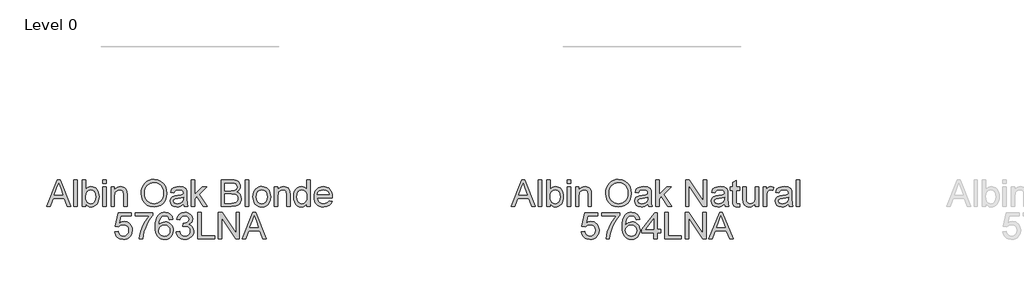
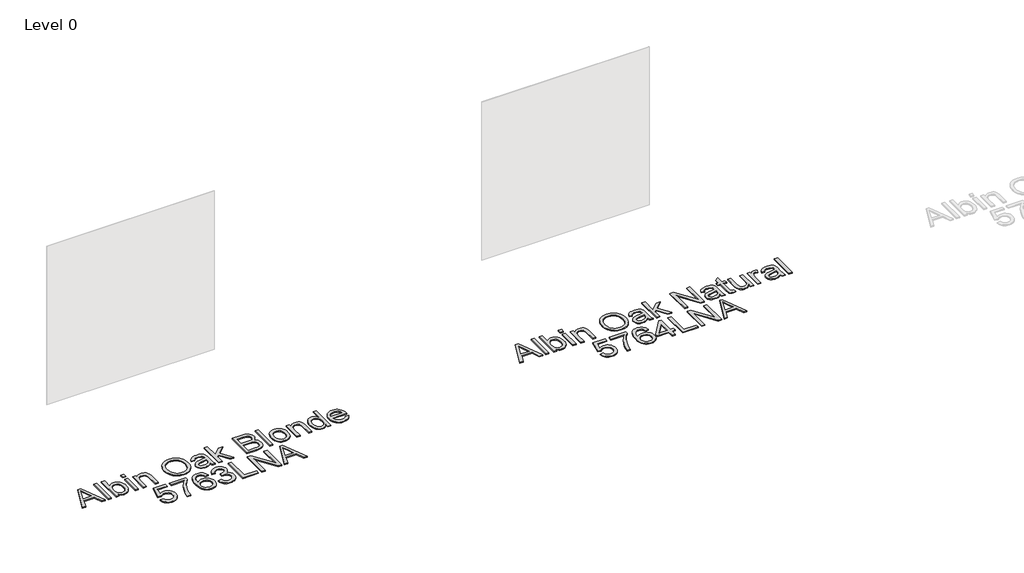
# One storey, part 26 of 43: 2 proxies.
"""IFC4 building model written with IfcOpenShell, lengths in millimetres."""

from ifc_helpers import new_model, si_unit, origin, origin_with_axes, place, context, project, spatial, polyline, outline, extrude, element, save

model = new_model("IFC4")

# Units and contexts
model_context = context("Model", 3, world=origin())
ifc_project = project(units=[si_unit("LENGTHUNIT", "METRE", prefix="MILLI")], contexts=[model_context])

# Site, building, storey
site = spatial("IfcSite", under=ifc_project)
building = spatial("IfcBuilding", under=site)
storey = spatial("IfcBuildingStorey", under=building, Name="Level 0", Elevation=0.0)

# Proxies
placement = place(None, origin())
element("IfcBuildingElementProxy", 1, Name="300mm Arial", ObjectType="300mm Arial", at=placement, inside=storey, context=model_context, shape_type="SweptSolid", body=[
    extrude(outline(polyline([(15934.4135613, -22016.4454346), (16054.7109737, -21715.0765041), (16086.7902837, -21715.0765041), (16207.0876961, -22016.4454346), (16167.2828642, -22016.4454346), (16132.7755331, -21922.2676438), (16008.6521479, -21922.2676438), (15974.2183931, -22016.4454346), (15934.4135613, -22016.4454346)]), holes=[polyline([(16022.4845109, -21884.5965275), (16119.0167464, -21884.5965275), (16091.8670552, -21810.5050937), (16070.7506287, -21752.7476204), (16051.9886469, -21804.0303705), (16022.4845109, -21884.5965275)])]), origin_with_axes(), (0.0, 0.0, 1.0), 10.0),
    extrude(outline(polyline([(16242.6250968, -22016.4454346), (16242.6250968, -21715.0765041), (16280.2962131, -21715.0765041), (16280.2962131, -22016.4454346), (16242.6250968, -22016.4454346)])), origin_with_axes(), (0.0, 0.0, 1.0), 10.0),
    extrude(outline(polyline([(16374.4740039, -22016.4454346), (16336.8028876, -22016.4454346), (16336.8028876, -21715.0765041), (16374.4740039, -21715.0765041), (16374.4740039, -21826.8390542), (16386.8624301, -21810.9051653), (16400.851143, -21799.5238161), (16416.4401425, -21792.6950066), (16433.6294287, -21790.4187367), (16453.035204, -21792.4696788), (16471.3741214, -21798.6225052), (16487.5977174, -21808.4909397), (16500.6575282, -21821.6887063), (16510.8938448, -21838.0870462), (16518.6469578, -21857.5572008), (16523.5305913, -21879.2898297), (16525.1584691, -21902.4755924), (16523.4731097, -21929.2298105), (16518.4170316, -21952.7650612), (16509.9902346, -21973.0813444), (16498.1927189, -21990.1786601), (16484.0315613, -22003.7305131), (16468.5138389, -22013.4104081), (16451.6395516, -22019.2183451), (16433.4086995, -22021.1543241), (16415.6537947, -22018.657325), (16399.9130439, -22011.1663279), (16386.1864469, -21998.6813327), (16374.4740039, -21981.2023394), (16374.4740039, -22016.4454346)]), holes=[polyline([(16374.4740039, -21904.241426), (16377.0491779, -21935.6585484), (16384.7746998, -21956.9221277), (16393.9027718, -21968.5426003), (16404.5115688, -21976.8429378), (16416.6010909, -21981.8231403), (16430.171338, -21983.4832078), (16451.9131639, -21978.5903772), (16470.4912046, -21963.9118856), (16483.2383158, -21939.5397035), (16487.4873528, -21905.5658012), (16483.4130597, -21871.0952583), (16471.1901804, -21846.9989876), (16453.1915538, -21832.8171367), (16431.7900187, -21828.089853), (16410.0481928, -21832.9826836), (16391.4701521, -21847.6611752), (16378.7230409, -21871.591899), (16374.4740039, -21904.241426)])]), origin_with_axes(), (0.0, 0.0, 1.0), 10.0),
    extrude(outline(polyline([(16567.538475, -21752.7476204), (16567.538475, -21715.0765041), (16605.2095913, -21715.0765041), (16605.2095913, -21752.7476204), (16567.538475, -21752.7476204)])), origin_with_axes(), (0.0, 0.0, 1.0), 10.0),
    extrude(outline(polyline([(16567.538475, -22016.4454346), (16567.538475, -21795.1276263), (16605.2095913, -21795.1276263), (16605.2095913, -22016.4454346), (16567.538475, -22016.4454346)])), origin_with_axes(), (0.0, 0.0, 1.0), 10.0),
    extrude(outline(polyline([(16661.7162657, -22016.4454346), (16661.7162657, -21795.1276263), (16699.387382, -21795.1276263), (16699.387382, -21826.0297138), (16712.474784, -21810.4499114), (16728.1925423, -21799.321481), (16746.5406568, -21792.6444228), (16767.5191275, -21790.4187367), (16786.0879712, -21792.2121614), (16803.0933165, -21797.5924356), (16817.2751674, -21805.8881746), (16827.3735282, -21816.4279938), (16838.6675054, -21844.129508), (16840.6540682, -21880.5498255), (16840.6540682, -22016.4454346), (16802.9829519, -22016.4454346), (16802.9829519, -21885.6265971), (16798.6419443, -21852.2964883), (16792.6362708, -21842.3728715), (16783.3012651, -21834.6749407), (16771.3359032, -21829.7361249), (16757.4391609, -21828.089853), (16735.3754382, -21831.7870671), (16716.5674712, -21842.8787092), (16709.0511822, -21851.9332048), (16703.6824043, -21864.3078354), (16699.387382, -21899.0175017), (16699.387382, -22016.4454346), (16661.7162657, -22016.4454346)])), origin_with_axes(), (0.0, 0.0, 1.0), 10.0),
    extrude(outline(polyline([(17000.7563125, -21869.7340949), (17003.2671071, -21834.3852337), (17010.799491, -21803.0922714), (17023.353464, -21775.8552082), (17040.9290264, -21752.674044), (17062.4731157, -21734.1649811), (17086.9326699, -21720.9442219), (17114.3076888, -21713.0117664), (17144.5981726, -21710.3676146), (17184.127093, -21715.3340215), (17219.5725232, -21730.2332423), (17249.0030828, -21754.0168133), (17270.4873913, -21785.6362708), (17283.6207786, -21823.5649045), (17287.9985743, -21866.2760041), (17283.3908523, -21909.5573209), (17269.5676864, -21948.0193834), (17247.2924316, -21979.6940232), (17217.328443, -22002.6130715), (17182.1865155, -22016.519011), (17144.3774434, -22021.1543241), (17104.2415177, -22016.0315673), (17068.5937524, -22000.663297), (17039.2367692, -21976.4382676), (17017.9731899, -21944.7452337), (17005.0605318, -21908.2789309), (17000.7563125, -21869.7340949)]), holes=[polyline([(17038.4274288, -21870.1019769), (17040.3105248, -21895.0765658), (17045.9598126, -21917.2460546), (17055.3752925, -21936.6104431), (17068.5569642, -21953.1697314), (17084.5805243, -21966.4318773), (17102.5216694, -21975.9048387), (17122.3803994, -21981.5886155), (17144.1567142, -21983.4832078), (17166.3055096, -21981.5702214), (17186.3987643, -21975.8312623), (17204.4364784, -21966.2663304), (17220.4186518, -21952.8754258), (17233.5037545, -21935.9666496), (17242.8502565, -21915.848103), (17248.4581576, -21892.519786), (17250.327458, -21865.9816985), (17247.1268847, -21832.6331957), (17237.5251646, -21803.8096413), (17221.7706181, -21780.2376025), (17200.1115657, -21762.6436461), (17173.982747, -21751.6899597), (17144.8189018, -21748.0387309), (17123.7990443, -21749.7976667), (17104.2967, -21755.074474), (17086.311869, -21763.869153), (17069.8445512, -21776.1817035), (17056.0995601, -21792.6053353), (17046.2817094, -21813.7332582), (17040.3909989, -21839.565472), (17038.4274288, -21870.1019769)])]), origin_with_axes(), (0.0, 0.0, 1.0), 10.0),
    extrude(outline(polyline([(17476.3541558, -21988.1920973), (17458.3555292, -22003.624747), (17439.8234737, -22013.7231078), (17420.334925, -22019.29652), (17399.4668189, -22021.1543241), (17367.9853171, -22016.6845578), (17344.7627662, -22003.2752591), (17330.4429595, -21982.9129907), (17325.6696906, -21957.5843153), (17327.4723124, -21941.9677246), (17332.8801777, -21927.7858737), (17341.221902, -21915.6457679), (17351.8261005, -21906.1544124), (17378.2032395, -21893.7935774), (17410.7975843, -21888.1281946), (17449.3148292, -21882.1685063), (17476.1334267, -21875.1787484), (17476.3541558, -21866.7910389), (17473.7605878, -21849.9788317), (17465.9798836, -21838.9791601), (17448.5790652, -21830.8121798), (17424.3356417, -21828.089853), (17401.89484, -21829.9016718), (17386.223067, -21835.3371283), (17375.5360951, -21845.3895038), (17368.0496965, -21861.0520798), (17330.3785802, -21856.3431903), (17336.9176826, -21835.7417985), (17346.6757525, -21819.5549907), (17360.5632979, -21807.1757616), (17379.4908265, -21797.9971058), (17402.6398011, -21792.313329), (17429.1916841, -21790.4187367), (17454.6583152, -21792.0925998), (17474.8458397, -21797.114189), (17490.0669572, -21804.664967), (17500.6343675, -21813.9263962), (17507.6425195, -21825.3767233), (17512.1858622, -21839.4941949), (17514.0252722, -21872.4564216), (17514.0252722, -21919.3245878), (17515.9382585, -21984.7707948), (17523.4430512, -22016.4454346), (17485.7719349, -22016.4454346), (17476.3541558, -21988.1920973)]), holes=[polyline([(17476.3541558, -21912.8498647), (17415.5800502, -21924.4013594), (17383.1696465, -21930.5082005), (17368.4911549, -21940.4410143), (17363.3408069, -21954.935565), (17366.1459071, -21966.1375717), (17374.5612078, -21975.3162275), (17388.4027679, -21981.4414627), (17407.4866464, -21983.4832078), (17427.7201561, -21981.2299306), (17445.5992211, -21974.4700989), (17460.0937717, -21964.5096939), (17470.1737383, -21952.6546966), (17474.6435046, -21940.4410143), (17476.1334267, -21923.5184426), (17476.3541558, -21912.8498647)])]), origin_with_axes(), (0.0, 0.0, 1.0), 10.0),
    extrude(outline(polyline([(17565.8230571, -22016.4454346), (17565.8230571, -21715.0765041), (17603.4941734, -21715.0765041), (17603.4941734, -21877.0181584), (17687.9598795, -21795.1276263), (17740.05197, -21795.1276263), (17654.5561943, -21878.048228), (17744.7608595, -22016.4454346), (17700.7621729, -22016.4454346), (17627.5536559, -21904.241426), (17603.4941734, -21927.5651445), (17603.4941734, -22016.4454346), (17565.8230571, -22016.4454346)])), origin_with_axes(), (0.0, 0.0, 1.0), 10.0),
    extrude(outline(polyline([(17900.1542143, -22016.4454346), (17900.1542143, -21715.0765041), (18015.154126, -21715.0765041), (18046.7827805, -21717.2929931), (18071.4768594, -21723.9424602), (18090.4043881, -21735.1904522), (18104.7333918, -21751.202516), (18113.7556977, -21770.0380742), (18116.7631331, -21789.7565491), (18114.2339443, -21807.9023285), (18106.6463782, -21824.9628561), (18093.9452523, -21839.889668), (18076.0753844, -21851.6343007), (18097.4217372, -21862.7811252), (18113.1946777, -21879.7404851), (18122.9343535, -21901.3903406), (18126.1809121, -21926.6086513), (18123.9644231, -21947.6239103), (18117.314956, -21967.112459), (18107.3913392, -21983.6855429), (18095.3524009, -21995.9544074), (18080.60953, -22004.8387576), (18062.5741152, -22011.2582984), (18014.2712092, -22016.4454346), (17900.1542143, -22016.4454346)]), holes=[polyline([(17937.8253306, -21837.5076321), (18006.6192637, -21837.5076321), (18046.7919776, -21834.2702705), (18060.8542668, -21828.6876613), (18070.9618247, -21820.3275429), (18077.0594687, -21809.3186742), (18079.0920167, -21795.7898138), (18077.1974245, -21782.6564266), (18071.5136476, -21771.2152966), (18062.2982037, -21762.2849611), (18049.8086099, -21756.6839578), (18001.3953394, -21752.7476204), (17937.8253306, -21752.7476204), (17937.8253306, -21837.5076321)]), polyline([(17937.8253306, -21978.7743182), (18015.0805496, -21978.7743182), (18043.0395812, -21977.3027903), (18066.6943935, -21969.0990218), (18082.3661665, -21952.360391), (18086.9738885, -21940.5329848), (18088.5097958, -21926.9765333), (18086.707174, -21911.2311839), (18081.2993087, -21897.6931265), (18071.8539385, -21887.1073221), (18057.938802, -21880.2187317), (18038.2295241, -21876.4387442), (18011.4017296, -21875.1787484), (17937.8253306, -21875.1787484), (17937.8253306, -21978.7743182)])]), origin_with_axes(), (0.0, 0.0, 1.0), 10.0),
    extrude(outline(polyline([(18173.2698075, -22016.4454346), (18173.2698075, -21715.0765041), (18210.9409238, -21715.0765041), (18210.9409238, -22016.4454346), (18173.2698075, -22016.4454346)])), origin_with_axes(), (0.0, 0.0, 1.0), 10.0),
    extrude(outline(polyline([(18258.0298192, -21905.7865304), (18260.0669657, -21877.1239245), (18266.1784054, -21852.425247), (18276.3641381, -21831.690498), (18290.624164, -21814.9196776), (18304.9807588, -21804.200516), (18320.8272758, -21796.5439719), (18338.1637148, -21791.9500455), (18356.9900759, -21790.4187367), (18377.7731094, -21792.2834386), (18396.5649815, -21797.8775442), (18413.3656924, -21807.2010535), (18428.175242, -21820.2539665), (18440.2624648, -21836.5948249), (18448.8961953, -21855.7821702), (18454.0764337, -21877.8160025), (18455.8031798, -21902.6963216), (18452.7497592, -21940.753714), (18443.5894976, -21969.7244212), (18428.5891092, -21991.4202618), (18408.0153086, -22007.6530549), (18383.5787471, -22017.7790068), (18356.9900759, -22021.1543241), (18335.9035398, -22019.29652), (18316.9369237, -22013.7231078), (18300.0902276, -22004.4340874), (18285.3634514, -21991.4294589), (18273.4049873, -21974.9299514), (18264.8632273, -21955.1562942), (18259.7381712, -21932.1084872), (18258.0298192, -21905.7865304)]), holes=[polyline([(18295.7009355, -21905.712954), (18300.0603372, -21939.8064179), (18313.1385421, -21964.0958266), (18332.8202288, -21978.6363625), (18356.9900759, -21983.4832078), (18381.0495584, -21978.6087713), (18400.6944569, -21963.985462), (18413.7726619, -21939.3741566), (18418.1320635, -21904.5357316), (18413.7450707, -21871.4355491), (18400.5840923, -21847.4772342), (18380.9116026, -21832.9366983), (18356.9900759, -21828.089853), (18332.8202288, -21832.9183042), (18313.1385421, -21847.4036578), (18300.0603372, -21871.6378842), (18295.7009355, -21905.712954)])]), origin_with_axes(), (0.0, 0.0, 1.0), 10.0),
    extrude(outline(polyline([(18498.1831857, -22016.4454346), (18498.1831857, -21795.1276263), (18535.854302, -21795.1276263), (18535.854302, -21826.0297138), (18548.9417039, -21810.4499114), (18564.6594622, -21799.321481), (18583.0075767, -21792.6444228), (18603.9860475, -21790.4187367), (18622.5548912, -21792.2121614), (18639.5602364, -21797.5924356), (18653.7420873, -21805.8881746), (18663.8404481, -21816.4279938), (18675.1344253, -21844.129508), (18677.1209881, -21880.5498255), (18677.1209881, -22016.4454346), (18639.4498718, -22016.4454346), (18639.4498718, -21885.6265971), (18635.1088643, -21852.2964883), (18629.1031907, -21842.3728715), (18619.7681851, -21834.6749407), (18607.8028232, -21829.7361249), (18593.9060808, -21828.089853), (18571.8423581, -21831.7870671), (18553.0343911, -21842.8787092), (18545.5181021, -21851.9332048), (18540.1493243, -21864.3078354), (18535.854302, -21899.0175017), (18535.854302, -22016.4454346), (18498.1831857, -22016.4454346)])), origin_with_axes(), (0.0, 0.0, 1.0), 10.0),
    extrude(outline(polyline([(18865.4765696, -22016.4454346), (18865.4765696, -21980.9080338), (18854.205585, -21998.5157858), (18840.5525645, -22011.0927515), (18824.517508, -22018.6389309), (18806.1004156, -22021.1543241), (18781.7466275, -22017.5122923), (18759.4529786, -22006.5861971), (18740.5806323, -21989.1393935), (18726.4907519, -21965.9352366), (18717.7167663, -21937.9118256), (18714.7921044, -21906.0072596), (18717.48684, -21874.4981667), (18725.5710469, -21846.0424944), (18739.0355279, -21822.2589234), (18757.871086, -21804.7661345), (18780.6521786, -21794.0055862), (18805.9532628, -21790.4187367), (18824.3841508, -21792.9847136), (18840.6813232, -21800.6826444), (18854.4952921, -21812.4824594), (18865.4765696, -21827.354089), (18865.4765696, -21715.0765041), (18903.1476859, -21715.0765041), (18903.1476859, -22016.4454346), (18865.4765696, -22016.4454346)]), holes=[polyline([(18752.4632207, -21905.8601068), (18756.7122578, -21939.9351766), (18769.4593689, -21964.169403), (18787.9822274, -21978.6547566), (18809.5585064, -21983.4832078), (18831.1255883, -21978.8754858), (18849.1793973, -21965.0523198), (18861.4022765, -21941.7561925), (18865.4765696, -21908.7295864), (18861.3287001, -21872.6219685), (18848.8850917, -21847.5875988), (18830.3714302, -21832.9642895), (18808.013402, -21828.089853), (18786.2163938, -21832.7711514), (18768.3557229, -21846.8150466), (18756.4363463, -21870.9389084), (18752.4632207, -21905.8601068)])]), origin_with_axes(), (0.0, 0.0, 1.0), 10.0),
    extrude(outline(polyline([(19114.6062568, -21950.520981), (19151.5416091, -21955.2298706), (19138.2334779, -21983.0601435), (19116.9974897, -22003.8638703), (19088.3118912, -22016.8317106), (19052.6549288, -22021.1543241), (19029.2806265, -22019.2896222), (19008.4539071, -22013.6955166), (18990.1747704, -22004.3720073), (18974.4432166, -21991.3190943), (18961.7926745, -21974.900061), (18952.756573, -21955.4781909), (18947.3349121, -21933.053484), (18945.5276918, -21907.6259404), (18947.3533062, -21881.3361733), (18952.8301494, -21858.1642061), (18961.9582214, -21838.1100389), (18974.7375222, -21821.1736715), (18990.4276893, -21807.7183875), (19008.2883602, -21798.1074704), (19028.3195348, -21792.3409201), (19050.5212132, -21790.4187367), (19072.007821, -21792.3363216), (19091.4388881, -21798.0890763), (19108.8144146, -21807.6770008), (19124.1344004, -21821.1000951), (19136.640089, -21837.9996743), (19145.5727237, -21858.0170533), (19150.9323045, -21881.1522323), (19152.7188315, -21907.4052112), (19152.4981023, -21917.5587542), (18983.1988081, -21917.5587542), (18989.7195165, -21945.7569092), (19004.8670576, -21966.4870596), (19026.7284452, -21979.2341707), (19053.3906928, -21983.4832078), (19073.4402615, -21981.5150391), (19090.3260451, -21975.6105331), (19104.0480435, -21965.4018077), (19114.6062568, -21950.520981)]), holes=[polyline([(18983.1988081, -21879.8876379), (19115.0477152, -21879.8876379), (19109.9525495, -21859.985222), (19099.9645534, -21845.7481888), (19078.0019983, -21832.504437), (19050.3740604, -21828.089853), (19024.9810057, -21831.6123231), (19003.9841408, -21842.1797334), (18989.3884227, -21858.6516498), (18983.1988081, -21879.8876379)])]), origin_with_axes(), (0.0, 0.0, 1.0), 10.0),
    extrude(outline(polyline([(16701.7418268, -22302.3187659), (16739.4129431, -22297.6098764), (16746.3291246, -22320.2254221), (16758.3956541, -22336.4214269), (16775.5573491, -22346.1611027), (16797.7590275, -22349.4076613), (16824.761566, -22344.8919098), (16844.9950757, -22331.3446554), (16857.6318223, -22310.3293964), (16861.8440711, -22283.4096314), (16857.8985367, -22258.0625619), (16846.0619335, -22238.6751808), (16826.242291, -22226.369528), (16798.3476387, -22222.2676438), (16780.0731006, -22223.9047187), (16765.2750474, -22228.8159433), (16744.1218326, -22245.8120915), (16706.4507163, -22241.1032019), (16739.4129431, -22085.7098472), (16885.3885188, -22085.7098472), (16885.3885188, -22123.3809635), (16769.8735723, -22123.3809635), (16753.7603409, -22206.3751416), (16780.6709089, -22190.041181), (16808.8690638, -22184.5965275), (16827.214879, -22186.2841861), (16844.0661737, -22191.3471621), (16859.4229477, -22199.7854554), (16873.2852012, -22211.5990659), (16884.7608201, -22226.0660254), (16892.9576908, -22242.4643653), (16897.8758133, -22260.7940857), (16899.5151874, -22281.0551866), (16893.6106814, -22318.7263029), (16886.2300489, -22335.520116), (16875.8971633, -22350.9527657), (16860.2437844, -22366.7578959), (16841.9784434, -22378.0472746), (16821.1011401, -22384.8209019), (16797.6118747, -22387.0787776), (16760.6121431, -22381.2754392), (16744.9334723, -22374.0212661), (16731.1355982, -22363.8654237), (16719.6553807, -22351.3137499), (16710.9296796, -22336.8720823), (16701.7418268, -22302.3187659)])), origin_with_axes(), (0.0, 0.0, 1.0), 10.0),
    extrude(outline(polyline([(16932.4774142, -22123.3809635), (16932.4774142, -22085.7098472), (17130.2507748, -22085.7098472), (17130.2507748, -22116.1704764), (17102.0618169, -22151.8458329), (17074.1487705, -22197.2148799), (17049.528268, -22248.1389451), (17031.2169417, -22300.479356), (17022.240621, -22339.6403943), (17017.2374259, -22382.3698881), (16979.5663096, -22382.3698881), (16983.6406027, -22343.5399435), (16994.5391068, -22297.3891472), (17011.9675163, -22248.4700389), (17035.6315256, -22201.3351583), (17063.2594635, -22158.7252262), (17092.5796585, -22123.3809635), (16932.4774142, -22123.3809635)])), origin_with_axes(), (0.0, 0.0, 1.0), 10.0),
    extrude(outline(polyline([(17356.2774726, -22161.0520798), (17318.6063563, -22165.7609693), (17312.5363034, -22147.0909581), (17304.3325349, -22134.3438469), (17287.2444162, -22122.5900172), (17266.5878422, -22118.6720739), (17249.0766592, -22120.9529423), (17232.5955458, -22127.7955474), (17218.4412861, -22142.2073246), (17206.8805944, -22162.0453612), (17199.072299, -22190.1055604), (17196.1752283, -22229.1838253), (17211.2859813, -22211.5530807), (17229.3949725, -22199.1278663), (17249.4905265, -22191.7610293), (17270.5609677, -22189.305417), (17288.6607619, -22190.9838786), (17305.3626045, -22196.0192634), (17320.6664955, -22204.4115714), (17334.5724349, -22216.1608027), (17346.1285281, -22230.5679813), (17354.3828803, -22246.9341316), (17359.3354917, -22265.2592534), (17360.9863622, -22285.543347), (17357.8777593, -22312.5182943), (17348.5519507, -22337.5250729), (17333.7814886, -22358.7334699), (17314.3389252, -22374.3132724), (17291.1071772, -22383.8874013), (17264.9691614, -22387.0787776), (17242.5122649, -22384.9634562), (17222.2304706, -22378.6174917), (17204.1237787, -22368.0408844), (17188.192189, -22353.2336341), (17175.2036553, -22333.5703414), (17165.9261313, -22308.4256071), (17160.3596168, -22277.799431), (17158.504112, -22241.6918131), (17160.5642512, -22201.2109981), (17166.7446687, -22166.6622802), (17177.0453646, -22138.0456595), (17191.4663388, -22115.361136), (17207.0967251, -22100.328558), (17225.2195118, -22089.5910022), (17245.8346991, -22083.1484688), (17268.942287, -22081.0009576), (17301.9964842, -22086.3168525), (17328.4655938, -22102.264537), (17347.0068463, -22127.5932123), (17356.2774726, -22161.0520798)]), holes=[polyline([(17196.1752283, -22284.9547358), (17198.3549291, -22301.6473813), (17204.8940316, -22317.5858687), (17215.0475747, -22331.2894731), (17228.0705973, -22341.2774692), (17243.7883555, -22347.3751133), (17262.0261055, -22349.4076613), (17286.8857313, -22345.1954125), (17306.4294623, -22332.5586659), (17319.0938, -22312.6930382), (17323.3152459, -22286.7941457), (17319.1489823, -22261.9345199), (17306.6501915, -22242.9794001), (17286.7753667, -22230.97725), (17260.4810011, -22226.9765333), (17235.6581635, -22230.97725), (17214.9004219, -22242.9794001), (17200.8565267, -22261.4746674), (17196.1752283, -22284.9547358)])]), origin_with_axes(), (0.0, 0.0, 1.0), 10.0),
    extrude(outline(polyline([(17393.9485889, -22302.3187659), (17431.6197052, -22297.6098764), (17440.0534, -22321.2830828), (17452.405038, -22337.2675555), (17469.2816245, -22346.3726349), (17491.2901649, -22349.4076613), (17517.1154809, -22345.2322007), (17537.0546851, -22332.7058187), (17549.8017962, -22314.0174134), (17554.0508332, -22291.3558825), (17549.8385844, -22269.8439828), (17537.2018379, -22252.3971792), (17518.0719741, -22240.8364875), (17494.3803736, -22236.9829236), (17467.9664464, -22241.1032019), (17472.1603011, -22203.4320856), (17478.1935658, -22203.873544), (17500.7631262, -22201.1696114), (17520.9414537, -22193.0578134), (17535.1784869, -22179.3358149), (17539.9241646, -22159.801281), (17536.484468, -22143.5316998), (17526.165378, -22130.3339332), (17510.4200286, -22121.5875388), (17490.7015537, -22118.6720739), (17470.9462905, -22121.6151299), (17454.7962709, -22130.4442978), (17443.005653, -22145.1595776), (17436.3285948, -22165.7609693), (17398.6574785, -22161.0520798), (17409.7491206, -22127.2253303), (17429.4859897, -22101.9702314), (17456.4885281, -22086.2432761), (17489.3771785, -22081.0009576), (17513.0595819, -22083.5853287), (17534.8106049, -22091.3384417), (17553.1495223, -22103.570518), (17566.5956093, -22119.5917789), (17574.845363, -22138.050258), (17577.5952809, -22157.593989), (17574.9833188, -22175.8041478), (17567.1474323, -22192.3220494), (17554.197986, -22206.3935357), (17536.2453447, -22217.2644487), (17559.8265806, -22226.7925923), (17577.3009753, -22243.0161883), (17588.116706, -22265.0523198), (17591.7219495, -22292.0180701), (17589.9193278, -22311.1295397), (17584.5114624, -22328.7326932), (17575.4983535, -22344.8275305), (17562.8800011, -22359.4140516), (17547.5071322, -22371.5173692), (17530.230474, -22380.1625961), (17511.0500265, -22385.3497322), (17489.9657897, -22387.0787776), (17470.9095023, -22385.6026511), (17453.5454721, -22381.1742716), (17437.8736992, -22373.7936391), (17423.8941833, -22363.4607535), (17412.1725433, -22350.7826203), (17403.2743975, -22336.3662446), (17397.1997461, -22320.2116265), (17393.9485889, -22302.3187659)])), origin_with_axes(), (0.0, 0.0, 1.0), 10.0),
    extrude(outline(polyline([(17638.8108449, -22382.3698881), (17638.8108449, -22081.0009576), (17676.4819612, -22081.0009576), (17676.4819612, -22344.6987718), (17827.1664265, -22344.6987718), (17827.1664265, -22382.3698881), (17638.8108449, -22382.3698881)])), origin_with_axes(), (0.0, 0.0, 1.0), 10.0),
    extrude(outline(polyline([(17869.5464323, -22382.3698881), (17869.5464323, -22081.0009576), (17909.866299, -22081.0009576), (18067.3197929, -22319.7563725), (18067.3197929, -22081.0009576), (18104.9909092, -22081.0009576), (18104.9909092, -22382.3698881), (18064.6710425, -22382.3698881), (17907.2175486, -22143.5408968), (17907.2175486, -22382.3698881), (17869.5464323, -22382.3698881)])), origin_with_axes(), (0.0, 0.0, 1.0), 10.0),
    extrude(outline(polyline([(18135.8194204, -22382.3698881), (18256.1168328, -22081.0009576), (18288.1961428, -22081.0009576), (18408.4935552, -22382.3698881), (18368.6887234, -22382.3698881), (18334.1813922, -22288.1920973), (18210.058007, -22288.1920973), (18175.6242523, -22382.3698881), (18135.8194204, -22382.3698881)]), holes=[polyline([(18223.89037, -22250.520981), (18320.4226056, -22250.520981), (18293.2729143, -22176.4295472), (18272.1564878, -22118.6720739), (18253.3945061, -22169.9548241), (18223.89037, -22250.520981)])]), origin_with_axes(), (0.0, 0.0, 1.0), 10.0),
])
element("IfcBuildingElementProxy", 2, Name="300mm Arial", ObjectType="300mm Arial", at=placement, inside=storey, context=model_context, shape_type="SweptSolid", body=[
    extrude(outline(polyline([(21163.2002138, -22016.4454346), (21283.4976262, -21715.0765041), (21315.5769362, -21715.0765041), (21435.8743486, -22016.4454346), (21396.0695167, -22016.4454346), (21361.5621856, -21922.2676438), (21237.4388004, -21922.2676438), (21203.0050456, -22016.4454346), (21163.2002138, -22016.4454346)]), holes=[polyline([(21251.2711634, -21884.5965275), (21347.8033989, -21884.5965275), (21320.6537077, -21810.5050937), (21299.5372812, -21752.7476204), (21280.7752994, -21804.0303705), (21251.2711634, -21884.5965275)])]), origin_with_axes(), (0.0, 0.0, 1.0), 10.0),
    extrude(outline(polyline([(21471.4117493, -22016.4454346), (21471.4117493, -21715.0765041), (21509.0828656, -21715.0765041), (21509.0828656, -22016.4454346), (21471.4117493, -22016.4454346)])), origin_with_axes(), (0.0, 0.0, 1.0), 10.0),
    extrude(outline(polyline([(21603.2606564, -22016.4454346), (21565.5895401, -22016.4454346), (21565.5895401, -21715.0765041), (21603.2606564, -21715.0765041), (21603.2606564, -21826.8390542), (21615.6490826, -21810.9051653), (21629.6377954, -21799.5238161), (21645.226795, -21792.6950066), (21662.4160812, -21790.4187367), (21681.8218565, -21792.4696788), (21700.1607739, -21798.6225052), (21716.3843699, -21808.4909397), (21729.4441807, -21821.6887063), (21739.6804972, -21838.0870462), (21747.4336103, -21857.5572008), (21752.3172438, -21879.2898297), (21753.9451216, -21902.4755924), (21752.2597622, -21929.2298105), (21747.203684, -21952.7650612), (21738.7768871, -21973.0813444), (21726.9793714, -21990.1786601), (21712.8182138, -22003.7305131), (21697.3004914, -22013.4104081), (21680.4262041, -22019.2183451), (21662.195352, -22021.1543241), (21644.4404472, -22018.657325), (21628.6996963, -22011.1663279), (21614.9730994, -21998.6813327), (21603.2606564, -21981.2023394), (21603.2606564, -22016.4454346)]), holes=[polyline([(21603.2606564, -21904.241426), (21605.8358303, -21935.6585484), (21613.5613522, -21956.9221277), (21622.6894243, -21968.5426003), (21633.2982213, -21976.8429378), (21645.3877434, -21981.8231403), (21658.9579905, -21983.4832078), (21680.6998164, -21978.5903772), (21699.2778571, -21963.9118856), (21712.0249683, -21939.5397035), (21716.2740053, -21905.5658012), (21712.1997122, -21871.0952583), (21699.9768329, -21846.9989876), (21681.9782063, -21832.8171367), (21660.5766712, -21828.089853), (21638.8348453, -21832.9826836), (21620.2568046, -21847.6611752), (21607.5096934, -21871.591899), (21603.2606564, -21904.241426)])]), origin_with_axes(), (0.0, 0.0, 1.0), 10.0),
    extrude(outline(polyline([(21796.3251275, -21752.7476204), (21796.3251275, -21715.0765041), (21833.9962438, -21715.0765041), (21833.9962438, -21752.7476204), (21796.3251275, -21752.7476204)])), origin_with_axes(), (0.0, 0.0, 1.0), 10.0),
    extrude(outline(polyline([(21796.3251275, -22016.4454346), (21796.3251275, -21795.1276263), (21833.9962438, -21795.1276263), (21833.9962438, -22016.4454346), (21796.3251275, -22016.4454346)])), origin_with_axes(), (0.0, 0.0, 1.0), 10.0),
    extrude(outline(polyline([(21890.5029182, -22016.4454346), (21890.5029182, -21795.1276263), (21928.1740345, -21795.1276263), (21928.1740345, -21826.0297138), (21941.2614365, -21810.4499114), (21956.9791947, -21799.321481), (21975.3273093, -21792.6444228), (21996.30578, -21790.4187367), (22014.8746237, -21792.2121614), (22031.879969, -21797.5924356), (22046.0618199, -21805.8881746), (22056.1601806, -21816.4279938), (22067.4541579, -21844.129508), (22069.4407207, -21880.5498255), (22069.4407207, -22016.4454346), (22031.7696044, -22016.4454346), (22031.7696044, -21885.6265971), (22027.4285968, -21852.2964883), (22021.4229232, -21842.3728715), (22012.0879176, -21834.6749407), (22000.1225557, -21829.7361249), (21986.2258134, -21828.089853), (21964.1620907, -21831.7870671), (21945.3541237, -21842.8787092), (21937.8378347, -21851.9332048), (21932.4690568, -21864.3078354), (21928.1740345, -21899.0175017), (21928.1740345, -22016.4454346), (21890.5029182, -22016.4454346)])), origin_with_axes(), (0.0, 0.0, 1.0), 10.0),
    extrude(outline(polyline([(22229.542965, -21869.7340949), (22232.0537596, -21834.3852337), (22239.5861434, -21803.0922714), (22252.1401165, -21775.8552082), (22269.7156788, -21752.674044), (22291.2597682, -21734.1649811), (22315.7193223, -21720.9442219), (22343.0943413, -21713.0117664), (22373.3848251, -21710.3676146), (22412.9137455, -21715.3340215), (22448.3591757, -21730.2332423), (22477.7897353, -21754.0168133), (22499.2740438, -21785.6362708), (22512.4074311, -21823.5649045), (22516.7852268, -21866.2760041), (22512.1775048, -21909.5573209), (22498.3543388, -21948.0193834), (22476.079084, -21979.6940232), (22446.1150955, -22002.6130715), (22410.9731679, -22016.519011), (22373.1640959, -22021.1543241), (22333.0281702, -22016.0315673), (22297.3804049, -22000.663297), (22268.0234217, -21976.4382676), (22246.7598423, -21944.7452337), (22233.8471843, -21908.2789309), (22229.542965, -21869.7340949)]), holes=[polyline([(22267.2140813, -21870.1019769), (22269.0971772, -21895.0765658), (22274.7464651, -21917.2460546), (22284.1619449, -21936.6104431), (22297.3436167, -21953.1697314), (22313.3671768, -21966.4318773), (22331.3083219, -21975.9048387), (22351.1670518, -21981.5886155), (22372.9433667, -21983.4832078), (22395.0921621, -21981.5702214), (22415.1854168, -21975.8312623), (22433.2231309, -21966.2663304), (22449.2053043, -21952.8754258), (22462.290407, -21935.9666496), (22471.6369089, -21915.848103), (22477.2448101, -21892.519786), (22479.1141105, -21865.9816985), (22475.9135371, -21832.6331957), (22466.3118171, -21803.8096413), (22450.5572706, -21780.2376025), (22428.8982182, -21762.6436461), (22402.7693994, -21751.6899597), (22373.6055543, -21748.0387309), (22352.5856968, -21749.7976667), (22333.0833525, -21755.074474), (22315.0985215, -21763.869153), (22298.6312037, -21776.1817035), (22284.8862126, -21792.6053353), (22275.0683619, -21813.7332582), (22269.1776514, -21839.565472), (22267.2140813, -21870.1019769)])]), origin_with_axes(), (0.0, 0.0, 1.0), 10.0),
    extrude(outline(polyline([(22705.1408083, -21988.1920973), (22687.1421817, -22003.624747), (22668.6101262, -22013.7231078), (22649.1215775, -22019.29652), (22628.2534713, -22021.1543241), (22596.7719696, -22016.6845578), (22573.5494187, -22003.2752591), (22559.229612, -21982.9129907), (22554.4563431, -21957.5843153), (22556.2589649, -21941.9677246), (22561.6668302, -21927.7858737), (22570.0085545, -21915.6457679), (22580.612753, -21906.1544124), (22606.989892, -21893.7935774), (22639.5842368, -21888.1281946), (22678.1014817, -21882.1685063), (22704.9200791, -21875.1787484), (22705.1408083, -21866.7910389), (22702.5472403, -21849.9788317), (22694.7665361, -21838.9791601), (22677.3657177, -21830.8121798), (22653.1222942, -21828.089853), (22630.6814925, -21829.9016718), (22615.0097195, -21835.3371283), (22604.3227476, -21845.3895038), (22596.836349, -21861.0520798), (22559.1652326, -21856.3431903), (22565.7043351, -21835.7417985), (22575.462405, -21819.5549907), (22589.3499504, -21807.1757616), (22608.277479, -21797.9971058), (22631.4264536, -21792.313329), (22657.9783366, -21790.4187367), (22683.4449677, -21792.0925998), (22703.6324922, -21797.114189), (22718.8536097, -21804.664967), (22729.42102, -21813.9263962), (22736.429172, -21825.3767233), (22740.9725147, -21839.4941949), (22742.8119246, -21872.4564216), (22742.8119246, -21919.3245878), (22744.724911, -21984.7707948), (22752.2297037, -22016.4454346), (22714.5585874, -22016.4454346), (22705.1408083, -21988.1920973)]), holes=[polyline([(22705.1408083, -21912.8498647), (22644.3667027, -21924.4013594), (22611.956299, -21930.5082005), (22597.2778073, -21940.4410143), (22592.1274594, -21954.935565), (22594.9325596, -21966.1375717), (22603.3478603, -21975.3162275), (22617.1894203, -21981.4414627), (22636.2732988, -21983.4832078), (22656.5068086, -21981.2299306), (22674.3858735, -21974.4700989), (22688.8804241, -21964.5096939), (22698.9603908, -21952.6546966), (22703.4301571, -21940.4410143), (22704.9200791, -21923.5184426), (22705.1408083, -21912.8498647)])]), origin_with_axes(), (0.0, 0.0, 1.0), 10.0),
    extrude(outline(polyline([(22794.6097096, -22016.4454346), (22794.6097096, -21715.0765041), (22832.2808259, -21715.0765041), (22832.2808259, -21877.0181584), (22916.746532, -21795.1276263), (22968.8386225, -21795.1276263), (22883.3428468, -21878.048228), (22973.547512, -22016.4454346), (22929.5488254, -22016.4454346), (22856.3403084, -21904.241426), (22832.2808259, -21927.5651445), (22832.2808259, -22016.4454346), (22794.6097096, -22016.4454346)])), origin_with_axes(), (0.0, 0.0, 1.0), 10.0),
    extrude(outline(polyline([(23128.9408668, -22016.4454346), (23128.9408668, -21715.0765041), (23169.2607335, -21715.0765041), (23326.7142274, -21953.831919), (23326.7142274, -21715.0765041), (23364.3853437, -21715.0765041), (23364.3853437, -22016.4454346), (23324.065477, -22016.4454346), (23166.6119831, -21777.6164433), (23166.6119831, -22016.4454346), (23128.9408668, -22016.4454346)])), origin_with_axes(), (0.0, 0.0, 1.0), 10.0),
    extrude(outline(polyline([(23566.8675938, -21988.1920973), (23548.8689672, -22003.624747), (23530.3369117, -22013.7231078), (23510.848363, -22019.29652), (23489.9802568, -22021.1543241), (23458.4987551, -22016.6845578), (23435.2762042, -22003.2752591), (23420.9563975, -21982.9129907), (23416.1831286, -21957.5843153), (23417.9857504, -21941.9677246), (23423.3936157, -21927.7858737), (23431.73534, -21915.6457679), (23442.3395385, -21906.1544124), (23468.7166775, -21893.7935774), (23501.3110223, -21888.1281946), (23539.8282672, -21882.1685063), (23566.6468646, -21875.1787484), (23566.8675938, -21866.7910389), (23564.2740258, -21849.9788317), (23556.4933216, -21838.9791601), (23539.0925032, -21830.8121798), (23514.8490797, -21828.089853), (23492.408278, -21829.9016718), (23476.736505, -21835.3371283), (23466.0495331, -21845.3895038), (23458.5631345, -21861.0520798), (23420.8920182, -21856.3431903), (23427.4311206, -21835.7417985), (23437.1891905, -21819.5549907), (23451.0767359, -21807.1757616), (23470.0042645, -21797.9971058), (23493.1532391, -21792.313329), (23519.7051221, -21790.4187367), (23545.1717532, -21792.0925998), (23565.3592777, -21797.114189), (23580.5803952, -21804.664967), (23591.1478055, -21813.9263962), (23598.1559575, -21825.3767233), (23602.6993002, -21839.4941949), (23604.5387101, -21872.4564216), (23604.5387101, -21919.3245878), (23606.4516965, -21984.7707948), (23613.9564892, -22016.4454346), (23576.2853729, -22016.4454346), (23566.8675938, -21988.1920973)]), holes=[polyline([(23566.8675938, -21912.8498647), (23506.0934882, -21924.4013594), (23473.6830845, -21930.5082005), (23459.0045929, -21940.4410143), (23453.8542449, -21954.935565), (23456.6593451, -21966.1375717), (23465.0746458, -21975.3162275), (23478.9162058, -21981.4414627), (23498.0000843, -21983.4832078), (23518.2335941, -21981.2299306), (23536.112659, -21974.4700989), (23550.6072097, -21964.5096939), (23560.6871763, -21952.6546966), (23565.1569426, -21940.4410143), (23566.6468646, -21923.5184426), (23566.8675938, -21912.8498647)])]), origin_with_axes(), (0.0, 0.0, 1.0), 10.0),
    extrude(outline(polyline([(23736.3876172, -21985.0283122), (23741.0965068, -22017.5490805), (23712.9167459, -22021.1543241), (23694.8353459, -22019.5908256), (23681.3524707, -22014.9003302), (23671.8243271, -22007.671449), (23665.6071213, -21998.4927932), (23662.1858188, -21982.7290497), (23661.0453846, -21955.7449053), (23661.0453846, -21832.7987426), (23632.7920474, -21832.7987426), (23632.7920474, -21795.1276263), (23661.0453846, -21795.1276263), (23661.0453846, -21741.3432786), (23698.7165009, -21719.1967824), (23698.7165009, -21795.1276263), (23736.3876172, -21795.1276263), (23736.3876172, -21832.7987426), (23698.7165009, -21832.7987426), (23698.7165009, -21954.6412594), (23700.7030637, -21974.0654287), (23707.1409986, -21980.944822), (23719.9800802, -21983.4832078), (23736.3876172, -21985.0283122)])), origin_with_axes(), (0.0, 0.0, 1.0), 10.0),
    extrude(outline(polyline([(23915.3254197, -22016.4454346), (23915.3254197, -21978.4064362), (23901.6953917, -21997.1086372), (23885.8212837, -22010.4673521), (23867.7030954, -22018.4825811), (23847.340827, -22021.1543241), (23828.9927125, -22019.2781259), (23811.9137908, -22013.6495314), (23797.5847871, -22005.1882455), (23787.4864263, -21994.8139732), (23776.2660255, -21967.0756708), (23774.0587335, -21932.0533049), (23774.0587335, -21795.1276263), (23811.7298498, -21795.1276263), (23811.7298498, -21914.3213927), (23814.0107182, -21952.728273), (23819.501357, -21965.5397635), (23828.909939, -21975.2794393), (23841.6110649, -21981.4322657), (23856.9793352, -21983.4832078), (23873.2305224, -21981.3862804), (23888.4332458, -21975.0954983), (23900.9688248, -21965.1902756), (23909.2185785, -21952.2500264), (23913.7987094, -21934.5273113), (23915.3254197, -21910.2746907), (23915.3254197, -21795.1276263), (23952.996536, -21795.1276263), (23952.996536, -22016.4454346), (23915.3254197, -22016.4454346)])), origin_with_axes(), (0.0, 0.0, 1.0), 10.0),
    extrude(outline(polyline([(24004.7943209, -22016.4454346), (24004.7943209, -21795.1276263), (24037.7565477, -21795.1276263), (24037.7565477, -21827.8691238), (24049.9334417, -21808.8864129), (24061.1538426, -21797.7028002), (24072.4110316, -21792.2397526), (24084.6982902, -21790.4187367), (24103.460272, -21793.3250045), (24122.5165594, -21802.0438078), (24109.9349951, -21835.8153749), (24096.6912433, -21830.0212335), (24083.4474915, -21828.089853), (24072.1994995, -21829.9476571), (24062.1471239, -21835.5210693), (24054.0261289, -21844.3870254), (24048.5722783, -21856.1224611), (24043.9921475, -21877.1653112), (24042.4654372, -21900.1211477), (24042.4654372, -22016.4454346), (24004.7943209, -22016.4454346)])), origin_with_axes(), (0.0, 0.0, 1.0), 10.0),
    extrude(outline(polyline([(24287.3276932, -21988.1920973), (24269.3290666, -22003.624747), (24250.7970111, -22013.7231078), (24231.3084624, -22019.29652), (24210.4403562, -22021.1543241), (24178.9588545, -22016.6845578), (24155.7363035, -22003.2752591), (24141.4164969, -21982.9129907), (24136.643228, -21957.5843153), (24138.4458497, -21941.9677246), (24143.8537151, -21927.7858737), (24152.1954393, -21915.6457679), (24162.7996378, -21906.1544124), (24189.1767769, -21893.7935774), (24221.7711217, -21888.1281946), (24260.2883665, -21882.1685063), (24287.106964, -21875.1787484), (24287.3276932, -21866.7910389), (24284.7341251, -21849.9788317), (24276.9534209, -21838.9791601), (24259.5526026, -21830.8121798), (24235.3091791, -21828.089853), (24212.8683774, -21829.9016718), (24197.1966044, -21835.3371283), (24186.5096324, -21845.3895038), (24179.0232338, -21861.0520798), (24141.3521175, -21856.3431903), (24147.89122, -21835.7417985), (24157.6492899, -21819.5549907), (24171.5368352, -21807.1757616), (24190.4643639, -21797.9971058), (24213.6133384, -21792.313329), (24240.1652214, -21790.4187367), (24265.6318525, -21792.0925998), (24285.819377, -21797.114189), (24301.0404946, -21804.664967), (24311.6079049, -21813.9263962), (24318.6160569, -21825.3767233), (24323.1593995, -21839.4941949), (24324.9988095, -21872.4564216), (24324.9988095, -21919.3245878), (24326.9117959, -21984.7707948), (24334.4165886, -22016.4454346), (24296.7454723, -22016.4454346), (24287.3276932, -21988.1920973)]), holes=[polyline([(24287.3276932, -21912.8498647), (24226.5535876, -21924.4013594), (24194.1431838, -21930.5082005), (24179.4646922, -21940.4410143), (24174.3143443, -21954.935565), (24177.1194445, -21966.1375717), (24185.5347451, -21975.3162275), (24199.3763052, -21981.4414627), (24218.4601837, -21983.4832078), (24238.6936934, -21981.2299306), (24256.5727584, -21974.4700989), (24271.067309, -21964.5096939), (24281.1472757, -21952.6546966), (24285.6170419, -21940.4410143), (24287.106964, -21923.5184426), (24287.3276932, -21912.8498647)])]), origin_with_axes(), (0.0, 0.0, 1.0), 10.0),
    extrude(outline(polyline([(24376.7965944, -22016.4454346), (24376.7965944, -21715.0765041), (24414.4677107, -21715.0765041), (24414.4677107, -22016.4454346), (24376.7965944, -22016.4454346)])), origin_with_axes(), (0.0, 0.0, 1.0), 10.0),
    extrude(outline(polyline([(21956.4273718, -22302.3187659), (21994.0984881, -22297.6098764), (22001.0146696, -22320.2254221), (22013.081199, -22336.4214269), (22030.2428941, -22346.1611027), (22052.4445725, -22349.4076613), (22079.4471109, -22344.8919098), (22099.6806207, -22331.3446554), (22112.3173672, -22310.3293964), (22116.5296161, -22283.4096314), (22112.5840817, -22258.0625619), (22100.7474785, -22238.6751808), (22080.927836, -22226.369528), (22053.0331837, -22222.2676438), (22034.7586456, -22223.9047187), (22019.9605923, -22228.8159433), (21998.8073776, -22245.8120915), (21961.1362613, -22241.1032019), (21994.0984881, -22085.7098472), (22140.0740637, -22085.7098472), (22140.0740637, -22123.3809635), (22024.5591173, -22123.3809635), (22008.4458859, -22206.3751416), (22035.3564538, -22190.041181), (22063.5546087, -22184.5965275), (22081.900424, -22186.2841861), (22098.7517186, -22191.3471621), (22114.1084927, -22199.7854554), (22127.9707461, -22211.5990659), (22139.4463651, -22226.0660254), (22147.6432358, -22242.4643653), (22152.5613582, -22260.7940857), (22154.2007324, -22281.0551866), (22148.2962263, -22318.7263029), (22140.9155938, -22335.520116), (22130.5827083, -22350.9527657), (22114.9293294, -22366.7578959), (22096.6639883, -22378.0472746), (22075.7866851, -22384.8209019), (22052.2974197, -22387.0787776), (22015.297688, -22381.2754392), (21999.6190172, -22374.0212661), (21985.8211432, -22363.8654237), (21974.3409257, -22351.3137499), (21965.6152246, -22336.8720823), (21956.4273718, -22302.3187659)])), origin_with_axes(), (0.0, 0.0, 1.0), 10.0),
    extrude(outline(polyline([(22187.1629591, -22123.3809635), (22187.1629591, -22085.7098472), (22384.9363197, -22085.7098472), (22384.9363197, -22116.1704764), (22356.7473619, -22151.8458329), (22328.8343155, -22197.2148799), (22304.2138129, -22248.1389451), (22285.9024866, -22300.479356), (22276.9261659, -22339.6403943), (22271.9229708, -22382.3698881), (22234.2518545, -22382.3698881), (22238.3261476, -22343.5399435), (22249.2246517, -22297.3891472), (22266.6530612, -22248.4700389), (22290.3170706, -22201.3351583), (22317.9450084, -22158.7252262), (22347.2652034, -22123.3809635), (22187.1629591, -22123.3809635)])), origin_with_axes(), (0.0, 0.0, 1.0), 10.0),
    extrude(outline(polyline([(22610.9630176, -22161.0520798), (22573.2919013, -22165.7609693), (22567.2218483, -22147.0909581), (22559.0180799, -22134.3438469), (22541.9299612, -22122.5900172), (22521.2733871, -22118.6720739), (22503.7622042, -22120.9529423), (22487.2810908, -22127.7955474), (22473.126831, -22142.2073246), (22461.5661393, -22162.0453612), (22453.757844, -22190.1055604), (22450.8607733, -22229.1838253), (22465.9715262, -22211.5530807), (22484.0805174, -22199.1278663), (22504.1760714, -22191.7610293), (22525.2465127, -22189.305417), (22543.3463069, -22190.9838786), (22560.0481494, -22196.0192634), (22575.3520404, -22204.4115714), (22589.2579799, -22216.1608027), (22600.814073, -22230.5679813), (22609.0684253, -22246.9341316), (22614.0210367, -22265.2592534), (22615.6719071, -22285.543347), (22612.5633042, -22312.5182943), (22603.2374957, -22337.5250729), (22588.4670336, -22358.7334699), (22569.0244701, -22374.3132724), (22545.7927221, -22383.8874013), (22519.6547064, -22387.0787776), (22497.1978098, -22384.9634562), (22476.9160156, -22378.6174917), (22458.8093236, -22368.0408844), (22442.877734, -22353.2336341), (22429.8892003, -22333.5703414), (22420.6116762, -22308.4256071), (22415.0451618, -22277.799431), (22413.189657, -22241.6918131), (22415.2497961, -22201.2109981), (22421.4302137, -22166.6622802), (22431.7309095, -22138.0456595), (22446.1518837, -22115.361136), (22461.78227, -22100.328558), (22479.9050568, -22089.5910022), (22500.5202441, -22083.1484688), (22523.6278319, -22081.0009576), (22556.6820292, -22086.3168525), (22583.1511387, -22102.264537), (22601.6923913, -22127.5932123), (22610.9630176, -22161.0520798)]), holes=[polyline([(22450.8607733, -22284.9547358), (22453.0404741, -22301.6473813), (22459.5795766, -22317.5858687), (22469.7331196, -22331.2894731), (22482.7561423, -22341.2774692), (22498.4739005, -22347.3751133), (22516.7116504, -22349.4076613), (22541.5712762, -22345.1954125), (22561.1150072, -22332.5586659), (22573.7793449, -22312.6930382), (22578.0007908, -22286.7941457), (22573.8345272, -22261.9345199), (22561.3357364, -22242.9794001), (22541.4609116, -22230.97725), (22515.166546, -22226.9765333), (22490.3437084, -22230.97725), (22469.5859668, -22242.9794001), (22455.5420717, -22261.4746674), (22450.8607733, -22284.9547358)])]), origin_with_axes(), (0.0, 0.0, 1.0), 10.0),
    extrude(outline(polyline([(22771.0652619, -22382.3698881), (22771.0652619, -22311.736545), (22634.5074653, -22311.736545), (22634.5074653, -22274.0654287), (22780.4830409, -22085.7098472), (22808.7363782, -22085.7098472), (22808.7363782, -22274.0654287), (22846.4074945, -22274.0654287), (22846.4074945, -22311.736545), (22808.7363782, -22311.736545), (22808.7363782, -22382.3698881), (22771.0652619, -22382.3698881)]), holes=[polyline([(22771.0652619, -22274.0654287), (22771.0652619, -22157.6675654), (22680.8605967, -22274.0654287), (22771.0652619, -22274.0654287)])]), origin_with_axes(), (0.0, 0.0, 1.0), 10.0),
    extrude(outline(polyline([(22893.4963899, -22382.3698881), (22893.4963899, -22081.0009576), (22931.1675062, -22081.0009576), (22931.1675062, -22344.6987718), (23081.8519714, -22344.6987718), (23081.8519714, -22382.3698881), (22893.4963899, -22382.3698881)])), origin_with_axes(), (0.0, 0.0, 1.0), 10.0),
    extrude(outline(polyline([(23124.2319772, -22382.3698881), (23124.2319772, -22081.0009576), (23164.5518439, -22081.0009576), (23322.0053378, -22319.7563725), (23322.0053378, -22081.0009576), (23359.6764542, -22081.0009576), (23359.6764542, -22382.3698881), (23319.3565875, -22382.3698881), (23161.9030935, -22143.5408968), (23161.9030935, -22382.3698881), (23124.2319772, -22382.3698881)])), origin_with_axes(), (0.0, 0.0, 1.0), 10.0),
    extrude(outline(polyline([(23390.5049653, -22382.3698881), (23510.8023778, -22081.0009576), (23542.8816878, -22081.0009576), (23663.1791002, -22382.3698881), (23623.3742683, -22382.3698881), (23588.8669371, -22288.1920973), (23464.743552, -22288.1920973), (23430.3097972, -22382.3698881), (23390.5049653, -22382.3698881)]), holes=[polyline([(23478.575915, -22250.520981), (23575.1081505, -22250.520981), (23547.9584593, -22176.4295472), (23526.8420328, -22118.6720739), (23508.080051, -22169.9548241), (23478.575915, -22250.520981)])]), origin_with_axes(), (0.0, 0.0, 1.0), 10.0),
])

save(model, "model.ifc")
